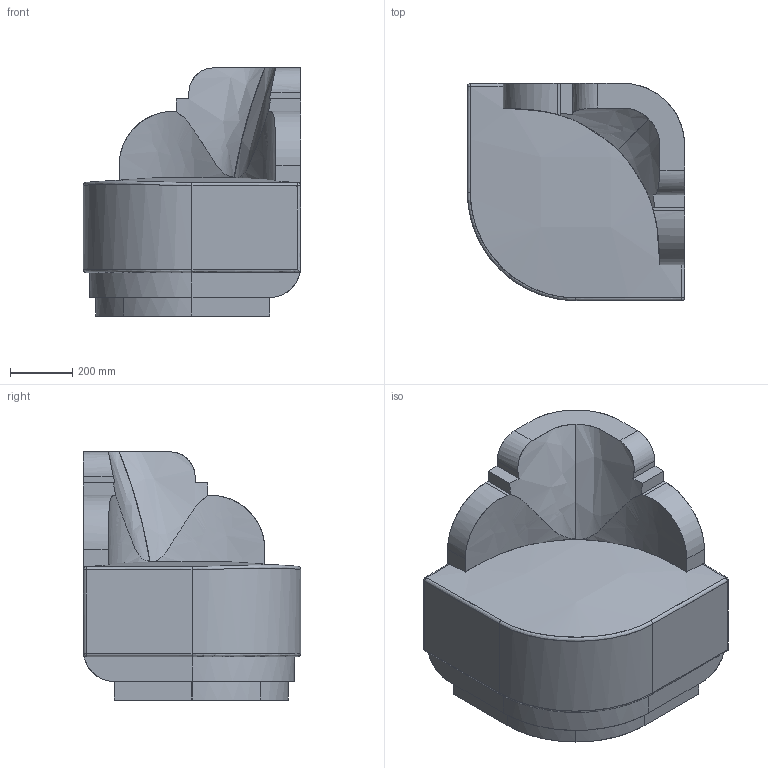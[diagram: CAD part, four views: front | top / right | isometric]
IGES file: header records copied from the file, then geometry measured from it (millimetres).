
Start section: SolidWorks IGES file using analytic representation for surfaces
Global section: file name: G:\Echant et Market\20-MOBILIER\MODELISATION 3D\mod; native system: Rhinoceros ( Sep 13 2021 ); preprocessor: Trout Lake IGES 012 Sep 13 2021; date: 211104.105710; units: millimetre
Bounding box: 700 x 700 x 800 mm (x, y, z)
Surface area: 3925856.9 mm2 (no closed solid volume)
Topology: 0 solids, 0 shells, 98 faces, 1904 edges, 1883 vertices
Faces by surface type: bspline 98
